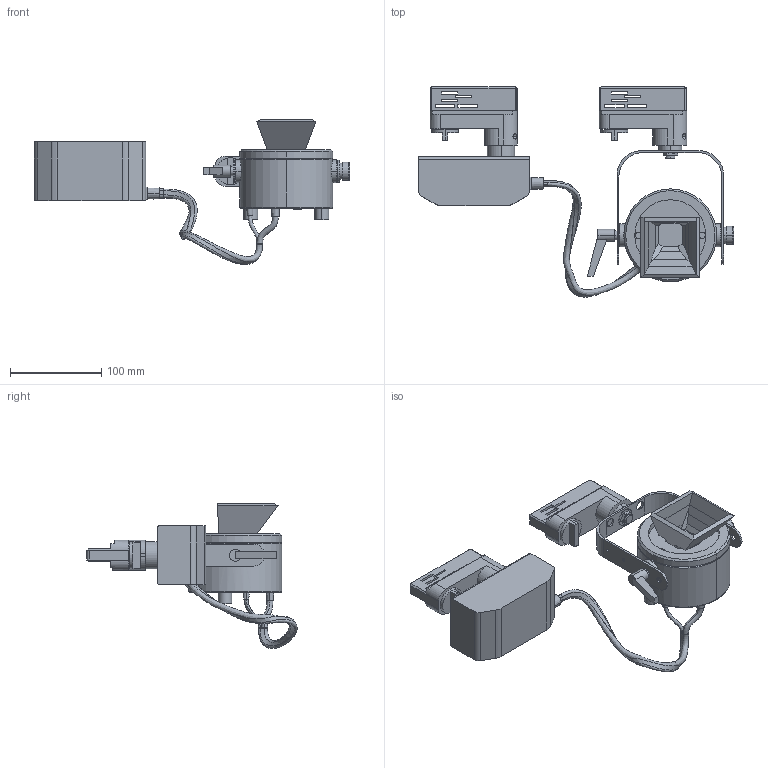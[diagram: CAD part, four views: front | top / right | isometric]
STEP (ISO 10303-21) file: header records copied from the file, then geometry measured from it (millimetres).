
FILE_DESCRIPTION (( 'STEP AP203' ), '1' );
FILE_NAME ('P3W(Track-W) Hanging.STEP', '2024-07-11T10:04:39', ( '' ), ( '' ), 'SwSTEP 2.0', 'SolidWorks 2014', '' );
FILE_SCHEMA (( 'CONFIG_CONTROL_DESIGN' ));
Length unit declared in the file: millimetre
Products named in the file (6): ONE TRACK Track Adapter (for P3X-W); P3W Color(White) - Yoke for Track and Clamp; P3W(Track-W) Hanging; ONE TRACK Track Adapter+90W Track Mount_Hanging (for P3W-W); Wall Wash Reflector (for Track-W); P3W Color(White) - Light Body
Assembly tree (5 placements, depth 2):
  P3W(Track-W) Hanging
    P3W Color(White) - Yoke for Track and Clamp
    P3W Color(White) - Light Body
    ONE TRACK Track Adapter (for P3X-W)
    ONE TRACK Track Adapter+90W Track Mount_Hanging (for P3W-W)
    Wall Wash Reflector (for Track-W)
Bounding box: 346.25 x 230.98 x 159.28 mm (x, y, z)
Volume: 1216417.7 mm3; surface area: 181618.3 mm2
Topology: 29 solids, 32 shells, 686 faces, 1638 edges, 1073 vertices
Faces by surface type: cylinder 317, plane 315, cone 30, bspline 16, torus 8
Entity records: 23396 total; most frequent: CARTESIAN_POINT 6355, DIRECTION 3595, ORIENTED_EDGE 3276, EDGE_CURVE 1638, AXIS2_PLACEMENT_3D 1377, VERTEX_POINT 1073, LINE 841, VECTOR 841
